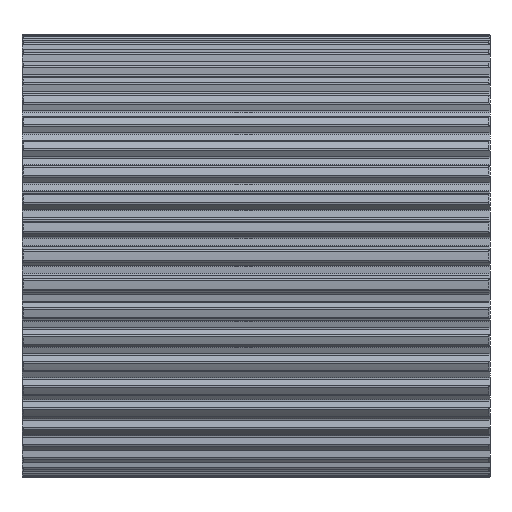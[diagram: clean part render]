
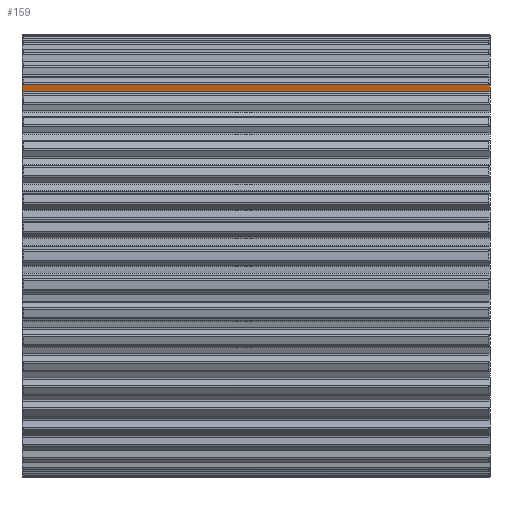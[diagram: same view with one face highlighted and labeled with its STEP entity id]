
A CAD part, front view. The second image highlights one B-rep face of the part: STEP entity #159.
In plain terms, the highlighted planar face has unit normal (0, -0.976, -0.216).
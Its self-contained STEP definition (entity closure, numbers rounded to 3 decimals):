
#159=ADVANCED_FACE('',(#742),#743,.T.);
#742=FACE_OUTER_BOUND('',#1740,.T.);
#743=PLANE('',#1741);
#1740=EDGE_LOOP('',(#3264,#3265,#3266,#3267,#3268,#3269));
#1741=AXIS2_PLACEMENT_3D('',#3270,#3271,#3272);
#3264=ORIENTED_EDGE('',*,*,#7277,.T.);
#3265=ORIENTED_EDGE('',*,*,#7403,.F.);
#3266=ORIENTED_EDGE('',*,*,#7404,.T.);
#3267=ORIENTED_EDGE('',*,*,#7405,.T.);
#3268=ORIENTED_EDGE('',*,*,#7406,.T.);
#3269=ORIENTED_EDGE('',*,*,#7401,.F.);
#3270=CARTESIAN_POINT('',(0.0,-47.295,57.403));
#3271=DIRECTION('',(0.,-0.976,-0.216));
#3272=DIRECTION('',(0.,0.216,-0.976));
#7277=EDGE_CURVE('',#9004,#9002,#9005,.T.);
#7401=EDGE_CURVE('',#9004,#9231,#9232,.T.);
#7403=EDGE_CURVE('',#9234,#9002,#9235,.T.);
#7404=EDGE_CURVE('',#9234,#9236,#9237,.T.);
#7405=EDGE_CURVE('',#9236,#9238,#9239,.T.);
#7406=EDGE_CURVE('',#9238,#9231,#9240,.T.);
#9002=VERTEX_POINT('',#12844);
#9004=VERTEX_POINT('',#12846);
#9005=(B_SPLINE_CURVE(2,(#12848,#12849,#12850),.UNSPECIFIED.,.F.,.F.)B_SPLINE_CURVE_WITH_KNOTS((3,3),(0.0,0.75),.UNSPECIFIED.)RATIONAL_B_SPLINE_CURVE((1.0,1.,1.0))BOUNDED_CURVE()REPRESENTATION_ITEM('')GEOMETRIC_REPRESENTATION_ITEM()CURVE());
#9231=VERTEX_POINT('',#13615);
#9232=LINE('',#13616,#13617);
#9234=VERTEX_POINT('',#13628);
#9235=LINE('',#13629,#13630);
#9236=VERTEX_POINT('',#13631);
#9237=LINE('',#13632,#13633);
#9238=VERTEX_POINT('',#13634);
#9239=LINE('',#13635,#13636);
#9240=(B_SPLINE_CURVE(2,(#13638,#13639,#13640),.UNSPECIFIED.,.F.,.F.)B_SPLINE_CURVE_WITH_KNOTS((3,3),(0.0,0.75),.UNSPECIFIED.)RATIONAL_B_SPLINE_CURVE((1.0,1.,1.0))BOUNDED_CURVE()REPRESENTATION_ITEM('')GEOMETRIC_REPRESENTATION_ITEM()CURVE());
#12844=CARTESIAN_POINT('',(0.,-47.541,58.511));
#12846=CARTESIAN_POINT('',(0.066,-47.557,58.583));
#12848=CARTESIAN_POINT('',(0.5,-47.662,59.056));
#12849=CARTESIAN_POINT('',(0.249,-47.601,58.782));
#12850=CARTESIAN_POINT('',(0.0,-47.541,58.511));
#13615=CARTESIAN_POINT('',(159.934,-47.557,58.583));
#13616=CARTESIAN_POINT('',(0.0,-47.557,58.583));
#13617=VECTOR('',#17879,1.0);
#13628=CARTESIAN_POINT('',(0.0,-47.034,56.222));
#13629=CARTESIAN_POINT('',(0.0,-47.034,56.222));
#13630=VECTOR('',#17880,1.);
#13631=CARTESIAN_POINT('',(160.0,-47.034,56.222));
#13632=CARTESIAN_POINT('',(0.0,-47.034,56.222));
#13633=VECTOR('',#17881,1.0);
#13634=CARTESIAN_POINT('',(160.0,-47.541,58.511));
#13635=CARTESIAN_POINT('',(160.0,-47.034,56.222));
#13636=VECTOR('',#17882,1.);
#13638=CARTESIAN_POINT('',(160.0,-47.541,58.511));
#13639=CARTESIAN_POINT('',(159.751,-47.601,58.782));
#13640=CARTESIAN_POINT('',(159.5,-47.662,59.056));
#17879=DIRECTION('',(1.0,0.,0.));
#17880=DIRECTION('',(0.,-0.216,0.976));
#17881=DIRECTION('',(1.0,0.,0.));
#17882=DIRECTION('',(0.,-0.216,0.976));
